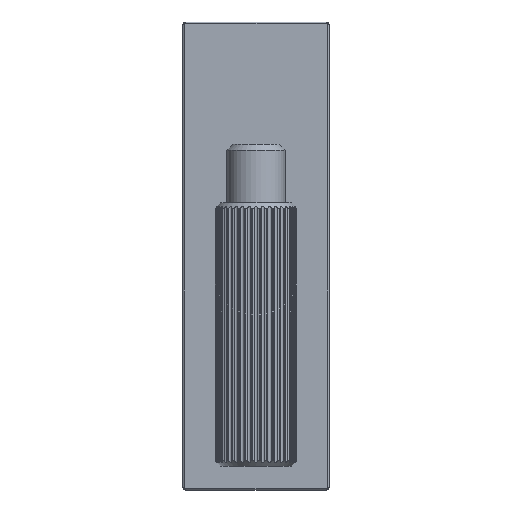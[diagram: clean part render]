
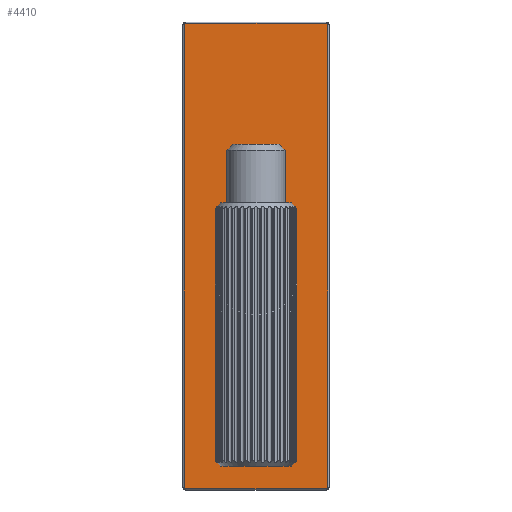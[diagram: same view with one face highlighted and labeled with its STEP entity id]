
A CAD part, top view. The second image highlights one B-rep face of the part: STEP entity #4410.
In plain terms, the highlighted planar face has unit normal (0, 0, 1) as drawn and (0, 0, -1) by its records, which use the part's own axes.
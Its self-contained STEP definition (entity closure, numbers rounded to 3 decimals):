
#81=FACE_BOUND('',#1025,.T.);
#548=PLANE('',#4913);
#773=FACE_OUTER_BOUND('',#1024,.T.);
#1024=EDGE_LOOP('',(#4062,#4063,#4064,#4065,#4066,#4067,#4068,#4069));
#1025=EDGE_LOOP('',(#4070,#4071,#4072,#4073,#4074,#4075));
#1285=LINE('',#10383,#1553);
#1291=LINE('',#10398,#1559);
#1294=LINE('',#10438,#1562);
#1295=LINE('',#10442,#1563);
#1296=LINE('',#10446,#1564);
#1297=LINE('',#10449,#1565);
#1298=LINE('',#10451,#1566);
#1553=VECTOR('',#5862,10.);
#1559=VECTOR('',#5876,10.);
#1562=VECTOR('',#5899,10.);
#1563=VECTOR('',#5902,10.);
#1564=VECTOR('',#5905,10.);
#1565=VECTOR('',#5908,10.);
#1566=VECTOR('',#5909,10.);
#1697=CIRCLE('',#4897,0.5);
#1699=CIRCLE('',#4901,0.5);
#1702=CIRCLE('',#4905,0.25);
#1709=CIRCLE('',#4914,0.25);
#1710=CIRCLE('',#4915,0.25);
#1711=CIRCLE('',#4916,0.25);
#1712=CIRCLE('',#4917,4.15);
#2131=VERTEX_POINT('',#10373);
#2132=VERTEX_POINT('',#10374);
#2135=VERTEX_POINT('',#10382);
#2137=VERTEX_POINT('',#10388);
#2138=VERTEX_POINT('',#10389);
#2142=VERTEX_POINT('',#10409);
#2143=VERTEX_POINT('',#10411);
#2149=VERTEX_POINT('',#10437);
#2150=VERTEX_POINT('',#10439);
#2151=VERTEX_POINT('',#10441);
#2152=VERTEX_POINT('',#10443);
#2153=VERTEX_POINT('',#10445);
#2154=VERTEX_POINT('',#10447);
#2155=VERTEX_POINT('',#10450);
#2770=EDGE_CURVE('',#2131,#2132,#1697,.T.);
#2774=EDGE_CURVE('',#2135,#2132,#1285,.T.);
#2777=EDGE_CURVE('',#2137,#2138,#1699,.T.);
#2782=EDGE_CURVE('',#2131,#2138,#1291,.T.);
#2784=EDGE_CURVE('',#2142,#2143,#1702,.T.);
#2793=EDGE_CURVE('',#2149,#2142,#1294,.T.);
#2794=EDGE_CURVE('',#2150,#2149,#1709,.T.);
#2795=EDGE_CURVE('',#2151,#2150,#1295,.T.);
#2796=EDGE_CURVE('',#2152,#2151,#1710,.T.);
#2797=EDGE_CURVE('',#2153,#2152,#1296,.T.);
#2798=EDGE_CURVE('',#2154,#2153,#1711,.T.);
#2799=EDGE_CURVE('',#2143,#2154,#1297,.T.);
#2800=EDGE_CURVE('',#2137,#2155,#1298,.T.);
#2801=EDGE_CURVE('',#2155,#2135,#1712,.T.);
#4062=ORIENTED_EDGE('',*,*,#2784,.F.);
#4063=ORIENTED_EDGE('',*,*,#2793,.F.);
#4064=ORIENTED_EDGE('',*,*,#2794,.F.);
#4065=ORIENTED_EDGE('',*,*,#2795,.F.);
#4066=ORIENTED_EDGE('',*,*,#2796,.F.);
#4067=ORIENTED_EDGE('',*,*,#2797,.F.);
#4068=ORIENTED_EDGE('',*,*,#2798,.F.);
#4069=ORIENTED_EDGE('',*,*,#2799,.F.);
#4070=ORIENTED_EDGE('',*,*,#2774,.T.);
#4071=ORIENTED_EDGE('',*,*,#2770,.F.);
#4072=ORIENTED_EDGE('',*,*,#2782,.T.);
#4073=ORIENTED_EDGE('',*,*,#2777,.F.);
#4074=ORIENTED_EDGE('',*,*,#2800,.T.);
#4075=ORIENTED_EDGE('',*,*,#2801,.T.);
#4410=ADVANCED_FACE('',(#773,#81),#548,.F.);
#4897=AXIS2_PLACEMENT_3D('',#10375,#5854,#5855);
#4901=AXIS2_PLACEMENT_3D('',#10390,#5867,#5868);
#4905=AXIS2_PLACEMENT_3D('',#10412,#5879,#5880);
#4913=AXIS2_PLACEMENT_3D('',#10436,#5897,#5898);
#4914=AXIS2_PLACEMENT_3D('',#10440,#5900,#5901);
#4915=AXIS2_PLACEMENT_3D('',#10444,#5903,#5904);
#4916=AXIS2_PLACEMENT_3D('',#10448,#5906,#5907);
#4917=AXIS2_PLACEMENT_3D('',#10452,#5910,#5911);
#5854=DIRECTION('center_axis',(0.,0.,-1.));
#5855=DIRECTION('ref_axis',(0.707,-0.707,0.));
#5862=DIRECTION('',(1.,0.,0.));
#5867=DIRECTION('center_axis',(0.,0.,-1.));
#5868=DIRECTION('ref_axis',(0.707,0.707,0.));
#5876=DIRECTION('',(0.,1.,0.));
#5879=DIRECTION('center_axis',(0.,0.,1.));
#5880=DIRECTION('ref_axis',(-0.707,-0.707,0.));
#5897=DIRECTION('center_axis',(0.,0.,1.));
#5898=DIRECTION('ref_axis',(1.,0.,0.));
#5899=DIRECTION('',(0.,-1.,0.));
#5900=DIRECTION('center_axis',(0.,0.,1.));
#5901=DIRECTION('ref_axis',(-0.707,0.707,0.));
#5902=DIRECTION('',(-1.,0.,0.));
#5903=DIRECTION('center_axis',(0.,0.,1.));
#5904=DIRECTION('ref_axis',(0.707,0.707,0.));
#5905=DIRECTION('',(0.,1.,0.));
#5906=DIRECTION('center_axis',(0.,0.,1.));
#5907=DIRECTION('ref_axis',(0.707,-0.707,0.));
#5908=DIRECTION('',(1.,0.,0.));
#5909=DIRECTION('',(-1.,0.,0.));
#5910=DIRECTION('center_axis',(0.,0.,1.));
#5911=DIRECTION('ref_axis',(0.,-1.,0.));
#10373=CARTESIAN_POINT('',(-12.452,-3.65,0.));
#10374=CARTESIAN_POINT('',(-12.952,-4.15,0.));
#10375=CARTESIAN_POINT('Origin',(-12.952,-3.65,0.));
#10382=CARTESIAN_POINT('',(-28.902,-4.15,0.));
#10383=CARTESIAN_POINT('',(-14.285,-4.15,0.));
#10388=CARTESIAN_POINT('',(-12.952,4.15,0.));
#10389=CARTESIAN_POINT('',(-12.452,3.65,0.));
#10390=CARTESIAN_POINT('Origin',(-12.952,3.65,0.));
#10398=CARTESIAN_POINT('',(-12.452,-2.075,0.));
#10409=CARTESIAN_POINT('',(-39.417,-12.,0.));
#10411=CARTESIAN_POINT('',(-39.167,-12.25,0.));
#10412=CARTESIAN_POINT('Origin',(-39.167,-12.,0.));
#10436=CARTESIAN_POINT('Origin',(0.333,0.,
0.));
#10437=CARTESIAN_POINT('',(-39.417,12.,0.));
#10438=CARTESIAN_POINT('',(-39.417,6.25,0.));
#10439=CARTESIAN_POINT('',(-39.167,12.25,0.));
#10440=CARTESIAN_POINT('Origin',(-39.167,12.,0.));
#10441=CARTESIAN_POINT('',(39.833,12.25,0.));
#10442=CARTESIAN_POINT('',(20.333,12.25,0.));
#10443=CARTESIAN_POINT('',(40.083,12.,0.));
#10444=CARTESIAN_POINT('Origin',(39.833,12.,0.));
#10445=CARTESIAN_POINT('',(40.083,-12.,0.));
#10446=CARTESIAN_POINT('',(40.083,-6.25,0.));
#10447=CARTESIAN_POINT('',(39.833,-12.25,0.));
#10448=CARTESIAN_POINT('Origin',(39.833,-12.,0.));
#10449=CARTESIAN_POINT('',(-19.667,-12.25,0.));
#10450=CARTESIAN_POINT('',(-28.902,4.15,0.));
#10451=CARTESIAN_POINT('',(-6.06,4.15,0.));
#10452=CARTESIAN_POINT('Origin',(-28.902,0.,0.));
